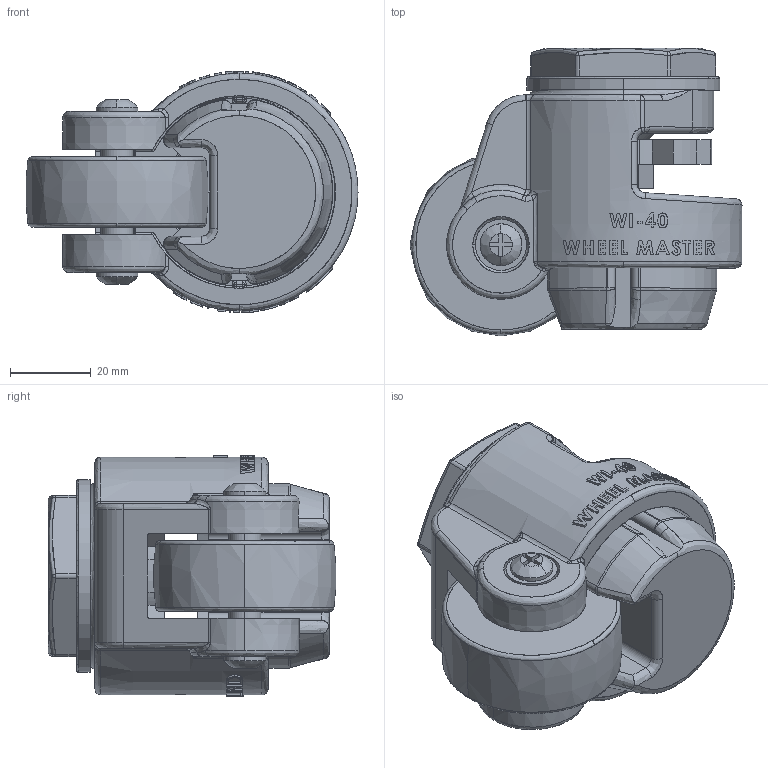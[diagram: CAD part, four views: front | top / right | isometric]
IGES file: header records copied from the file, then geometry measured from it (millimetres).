
Start section: SolidWorks IGES file using analytic representation for surfaces
Bounding box: 82.44 x 71.44 x 60 mm (x, y, z)
Surface area: 43628.1 mm2 (no closed solid volume)
Topology: 0 solids, 0 shells, 708 faces, 8224 edges, 8198 vertices
Faces by surface type: bspline 521, revolution 187
